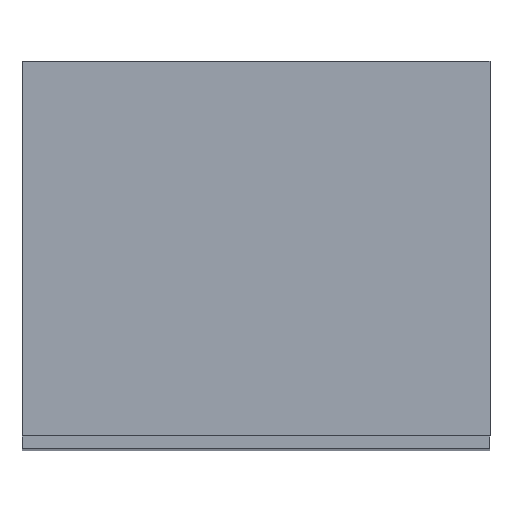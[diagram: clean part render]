
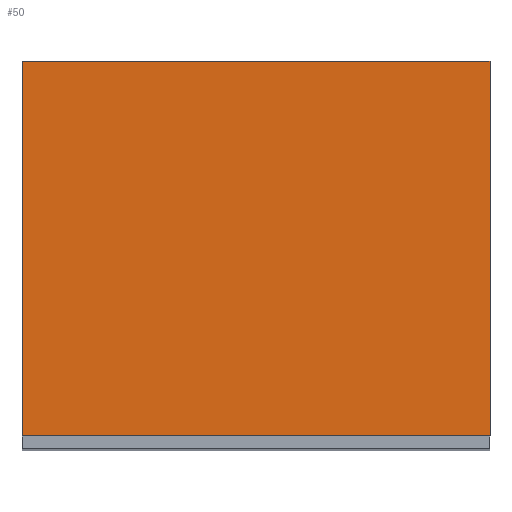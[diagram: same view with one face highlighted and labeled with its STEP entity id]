
A CAD part, top view. The second image highlights one B-rep face of the part: STEP entity #50.
In plain terms, the highlighted planar face has unit normal (0, 0, 1).
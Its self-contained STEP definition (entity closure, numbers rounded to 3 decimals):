
#50=ADVANCED_FACE('',(#70),#306,.T.);
#70=FACE_OUTER_BOUND('',#90,.T.);
#90=EDGE_LOOP('',(#122,#123,#124,#125));
#122=ORIENTED_EDGE('',*,*,#190,.F.);
#123=ORIENTED_EDGE('',*,*,#194,.F.);
#124=ORIENTED_EDGE('',*,*,#197,.F.);
#125=ORIENTED_EDGE('',*,*,#200,.F.);
#190=EDGE_CURVE('',#274,#275,#232,.T.);
#194=EDGE_CURVE('',#278,#274,#236,.T.);
#197=EDGE_CURVE('',#280,#278,#239,.T.);
#200=EDGE_CURVE('',#275,#280,#242,.T.);
#232=B_SPLINE_CURVE_WITH_KNOTS('',1,(#402,#403),.UNSPECIFIED.,.F.,.F.,(2,
2),(-2.418,0.),.UNSPECIFIED.);
#236=B_SPLINE_CURVE_WITH_KNOTS('',1,(#410,#411),.UNSPECIFIED.,.F.,.F.,(2,
2),(-1.936,0.),.UNSPECIFIED.);
#239=B_SPLINE_CURVE_WITH_KNOTS('',1,(#416,#417),.UNSPECIFIED.,.F.,.F.,(2,
2),(-2.418,0.),.UNSPECIFIED.);
#242=B_SPLINE_CURVE_WITH_KNOTS('',1,(#422,#423),.UNSPECIFIED.,.F.,.F.,(2,
2),(-1.936,0.),.UNSPECIFIED.);
#274=VERTEX_POINT('',#394);
#275=VERTEX_POINT('',#395);
#278=VERTEX_POINT('',#398);
#280=VERTEX_POINT('',#400);
#306=PLANE('',#346);
#346=AXIS2_PLACEMENT_3D('',#392,#369,$);
#369=DIRECTION('',(0.,0.,1.));
#392=CARTESIAN_POINT('',(368.51,638.01,2050.));
#394=CARTESIAN_POINT('',(-368.5,638.,2050.));
#395=CARTESIAN_POINT('',(368.5,638.,2050.));
#398=CARTESIAN_POINT('',(-368.5,48.,2050.));
#400=CARTESIAN_POINT('',(368.5,48.,2050.));
#402=CARTESIAN_POINT('',(-368.5,638.,2050.));
#403=CARTESIAN_POINT('',(368.5,638.,2050.));
#410=CARTESIAN_POINT('',(-368.5,48.,2050.));
#411=CARTESIAN_POINT('',(-368.5,638.,2050.));
#416=CARTESIAN_POINT('',(368.5,48.,2050.));
#417=CARTESIAN_POINT('',(-368.5,48.,2050.));
#422=CARTESIAN_POINT('',(368.5,638.,2050.));
#423=CARTESIAN_POINT('',(368.5,48.,2050.));
